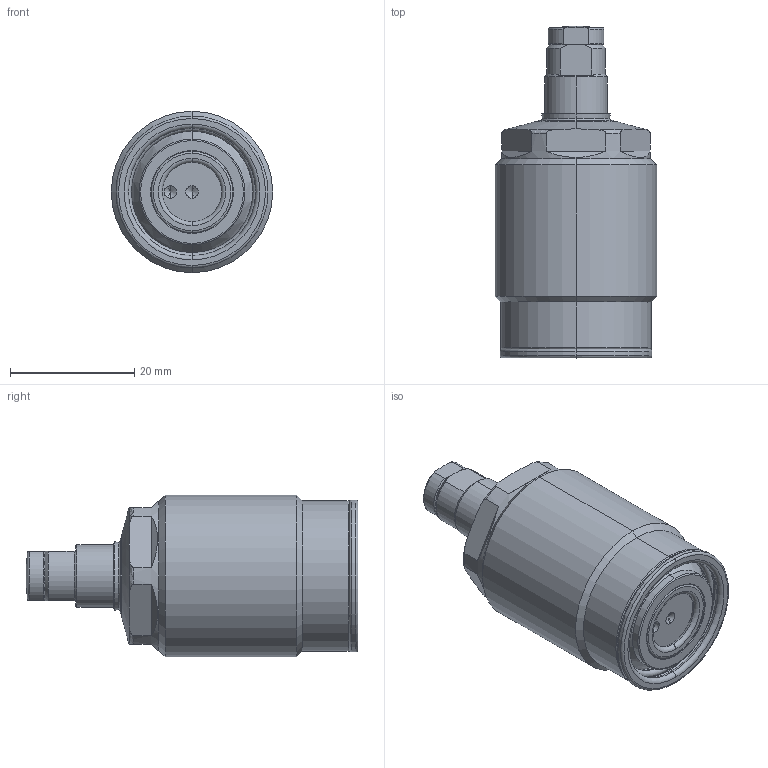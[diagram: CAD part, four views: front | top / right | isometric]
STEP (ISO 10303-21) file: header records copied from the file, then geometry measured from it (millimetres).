
FILE_DESCRIPTION(/* description */ (''),/* implementation_level */ '2;1');
FILE_NAME(/* name */ 'TSS00-S.stp',/* time_stamp */ '2024-01-24T13:25:46+08:00',/* author */ (''),/* organization */ (''),/* preprocessor_version */ 'ST-DEVELOPER v16.7',/* originating_system */ 'SIEMENS PLM Software NX 12.0',/* authorisation */ '');
FILE_SCHEMA (('AP203_CONFIGURATION_CONTROLLED_3D_DESIGN_OF_MECHANICAL_PARTS_AND_ASSEMBLIES_MIM_LF { 1 0 10303 403 2 1 2}'));
Length unit declared in the file: millimetre
Products named in the file (7): XLD-M6_contactbolt161; XLD-M6_Oring4004; TSS00-S-04; TSS00-S-03; TSS00-S-01; TSS00-S-02; LD0263-x-ES_step
Assembly tree (6 placements, depth 3):
  LD0263-x-ES_step
    TSS00-S-01
    TSS00-S-02
      XLD-M6_Oring4004
      XLD-M6_contactbolt161
    TSS00-S-03
    TSS00-S-04
Bounding box: 26 x 53.5 x 26 mm (x, y, z)
Volume: 18842.9 mm3; surface area: 6158.7 mm2
Topology: 5 solids, 5 shells, 173 faces, 380 edges, 223 vertices
Faces by surface type: torus 60, cylinder 42, plane 35, cone 34, sphere 2
Entity records: 5860 total; most frequent: CARTESIAN_POINT 1199, DIRECTION 922, ORIENTED_EDGE 752, AXIS2_PLACEMENT_3D 410, EDGE_CURVE 376, CIRCLE 230, VERTEX_POINT 223, EDGE_LOOP 187
